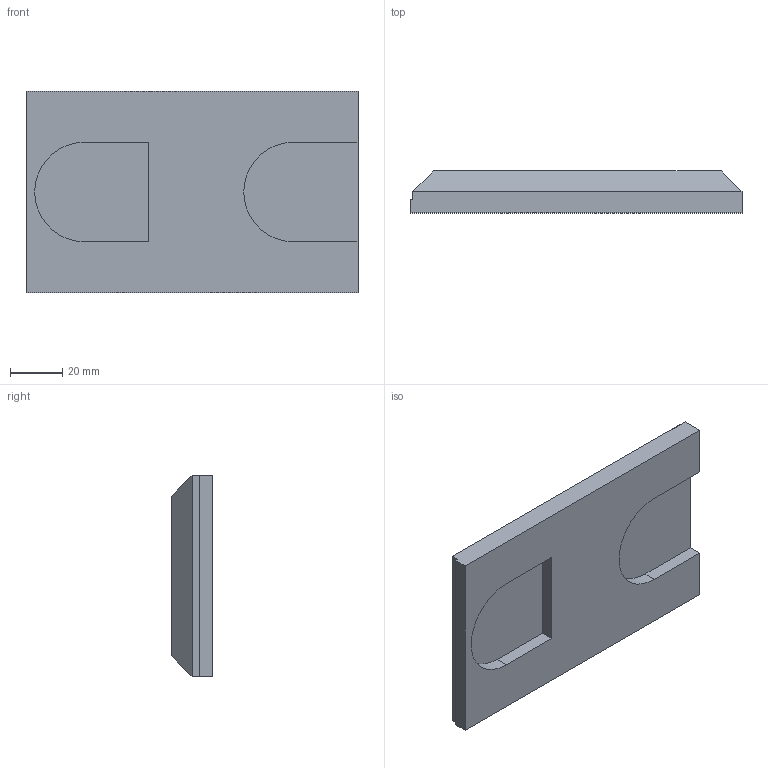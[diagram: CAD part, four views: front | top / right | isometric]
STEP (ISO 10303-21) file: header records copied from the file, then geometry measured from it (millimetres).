
FILE_DESCRIPTION (( 'STEP AP214' ), '1' );
FILE_NAME ('81403.STEP', '2020-10-27T13:19:00', ( '' ), ( '' ), 'SwSTEP 2.0', 'SolidWorks 2019', '' );
FILE_SCHEMA (( 'AUTOMOTIVE_DESIGN' ));
Length unit declared in the file: millimetre
Products named in the file (1): 81403
Bounding box: 127 x 16 x 77 mm (x, y, z)
Volume: 128251.1 mm3; surface area: 25146.2 mm2
Topology: 1 solids, 1 shells, 21 faces, 50 edges, 32 vertices
Faces by surface type: plane 19, cylinder 2
Entity records: 641 total; most frequent: CARTESIAN_POINT 104, ORIENTED_EDGE 100, DIRECTION 98, EDGE_CURVE 50, LINE 46, VECTOR 46, VERTEX_POINT 32, AXIS2_PLACEMENT_3D 26
